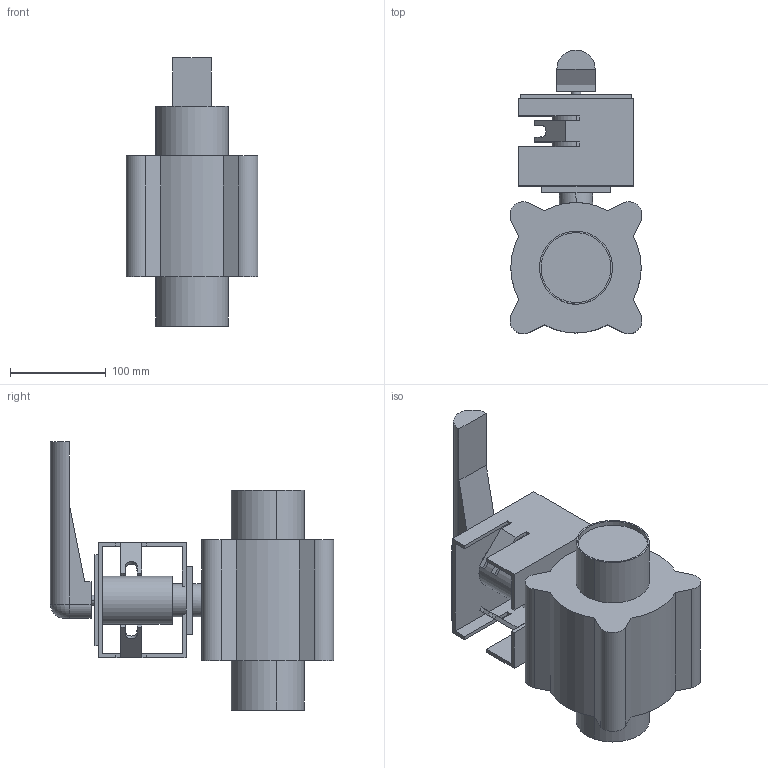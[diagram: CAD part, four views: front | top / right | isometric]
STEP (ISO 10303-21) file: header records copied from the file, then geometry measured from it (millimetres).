
FILE_DESCRIPTION(('Creo Elements/Direct Modeling STEP Export'),'2;1');
FILE_NAME('BLV1-3T-HL-12S.stp','2019-05-10T 8:25:47',(''),(''),'Creo Elements/Direct Modeling STEP processor for AP214 (Solid Model)','Creo Elements/Direct Modeling 19.0F 14-Feb-2017 (C) Parametric Technology GmbH','');
FILE_SCHEMA(('AUTOMOTIVE_DESIGN { 1 0 10303 214 1 1 1 1 }'));
Length unit declared in the file: millimetre
Products named in the file (2): BLV1-3T-HL-12S
Assembly tree (1 placements, depth 2):
  BLV1-3T-HL-12S
    BLV1-3T-HL-12S
Bounding box: 137.58 x 295.49 x 279.5 mm (x, y, z)
Volume: 3174566.5 mm3; surface area: 265604.2 mm2
Topology: 1 solids, 1 shells, 108 faces, 287 edges, 189 vertices
Faces by surface type: plane 76, cylinder 31, torus 1
Entity records: 3282 total; most frequent: CARTESIAN_POINT 602, ORIENTED_EDGE 574, DIRECTION 512, EDGE_CURVE 287, VECTOR 212, LINE 212, VERTEX_POINT 189, AXIS2_PLACEMENT_3D 150
